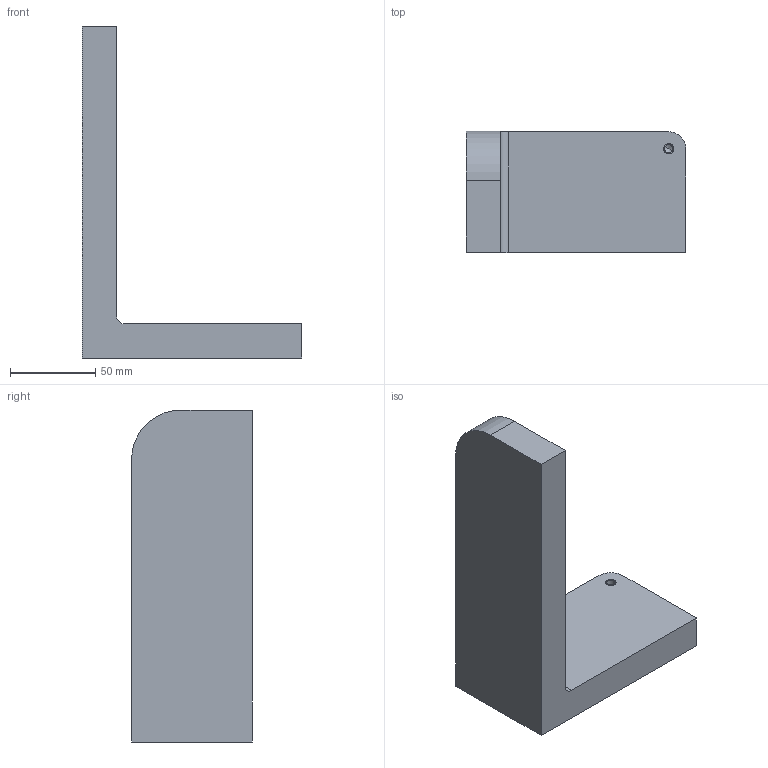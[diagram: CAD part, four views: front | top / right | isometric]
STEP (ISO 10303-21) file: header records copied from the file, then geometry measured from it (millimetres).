
FILE_DESCRIPTION(('CATIA V5 STEP Exchange'),'2;1');
FILE_NAME('C:\_Andres\UNIVERSIDAD\IQS\ASIGNATURAS\DAO\EXF\EXF-16172c\2inicio\Sala_Ferrero_Ej01_v29.stp','2017-03-05T15:11:11+00:00',('none'),('none'),'CATIA Version 5-6 Release 2014 SP1 HF18','CATIA V5 STEP AP203','none');
FILE_SCHEMA(('CONFIG_CONTROL_DESIGN'));
Length unit declared in the file: millimetre
Products named in the file (1): Sala_Ferrero_Ej01_v29
Bounding box: 129 x 71 x 195 mm (x, y, z)
Volume: 427709.3 mm3; surface area: 57764 mm2
Topology: 1 solids, 2 shells, 17 faces, 43 edges, 27 vertices
Faces by surface type: plane 8, cylinder 7, cone 2
Entity records: 513 total; most frequent: CARTESIAN_POINT 83, ORIENTED_EDGE 78, DIRECTION 69, EDGE_CURVE 41, AXIS2_PLACEMENT_3D 29, VECTOR 27, LINE 27, VERTEX_POINT 27
